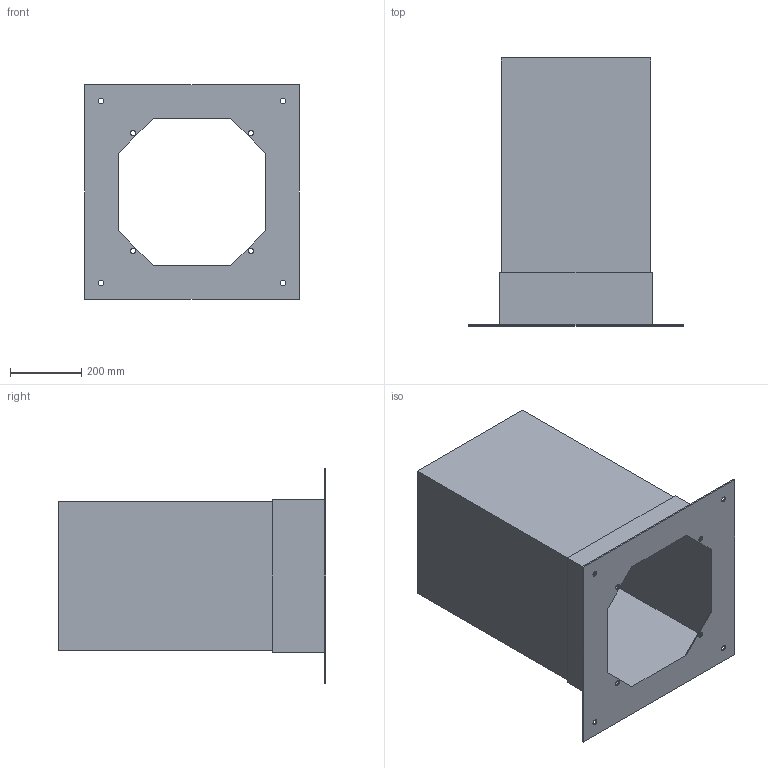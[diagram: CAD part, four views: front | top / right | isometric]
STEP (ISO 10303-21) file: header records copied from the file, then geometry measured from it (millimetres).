
FILE_DESCRIPTION(('STEP AP214'),'1');
FILE_NAME('accessory_5136862900.stp','2017-10-09T10:29:50',('TraceParts'),('TraceParts S.A.'),'Spatial InterOp 3D',' ',' ');
FILE_SCHEMA(('automotive_design'));
Length unit declared in the file: millimetre
Products named in the file (1): accessory_5136862900
Bounding box: 600 x 750 x 600 mm (x, y, z)
Volume: 6847170.7 mm3; surface area: 2950817.7 mm2
Topology: 1 solids, 1 shells, 60 faces, 168 edges, 112 vertices
Faces by surface type: plane 36, cylinder 24
Entity records: 2488 total; most frequent: CARTESIAN_POINT 341, DIRECTION 338, ORIENTED_EDGE 336, EDGE_CURVE 168, LINE 120, VECTOR 120, VERTEX_POINT 112, AXIS2_PLACEMENT_3D 109
